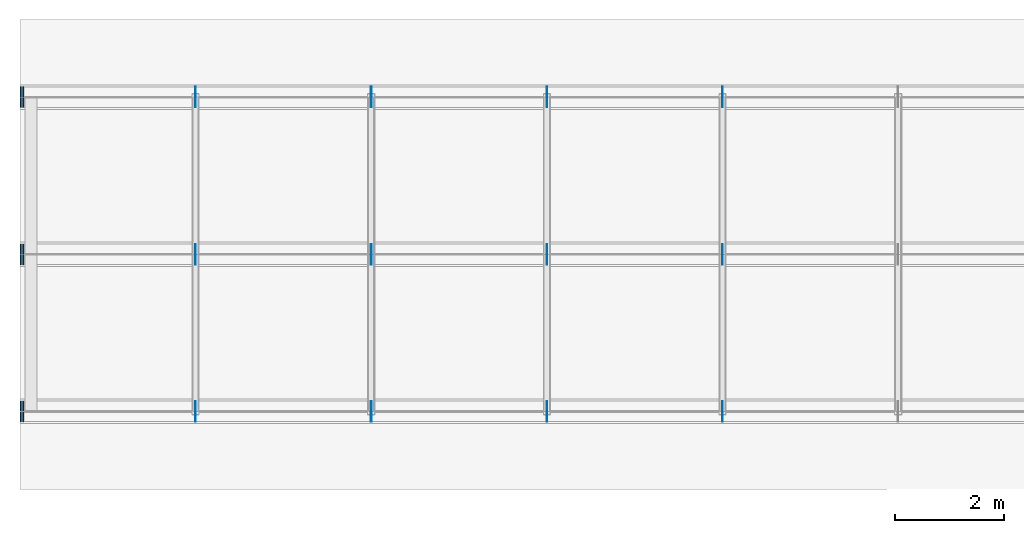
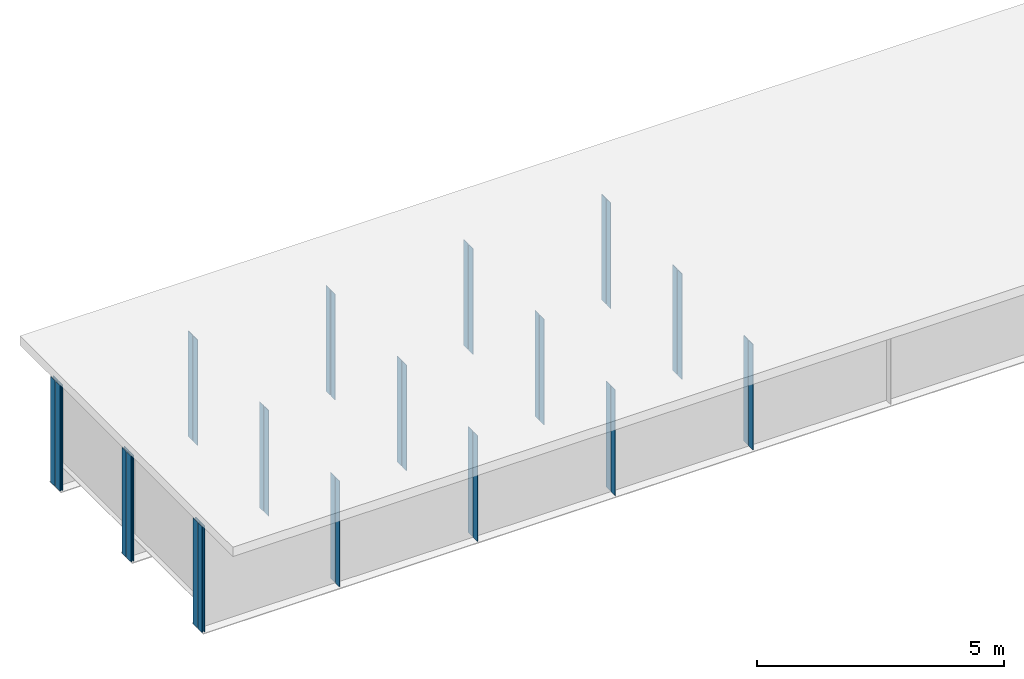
# One storey, part 2 of 12: 36 plates.
"""IFC4 building model written with IfcOpenShell, lengths in metres."""

from ifc_helpers import new_model, si_unit, frame, origin, origin_with_axes, origin_2d_with_axis, place, context, subcontext, project, spatial, rectangle, extrude, element, save


model = new_model("IFC4")

# Units and contexts
model_context = context("Model", 3, precision=1e-05, world=origin())
body_context = subcontext(model_context, "Body", "Model", "MODEL_VIEW")
ifc_project = project(units=[si_unit("LENGTHUNIT", "METRE"), si_unit("AREAUNIT", "SQUARE_METRE"), si_unit("VOLUMEUNIT", "CUBIC_METRE"), si_unit("PLANEANGLEUNIT", "RADIAN")], contexts=[model_context])

# Site, building, storey
site_placement = place(None, origin_with_axes())
site = spatial("IfcSite", under=ifc_project, at=site_placement, Name="Default Site")
building_placement = place(site_placement, origin_with_axes())
building = spatial("IfcBuilding", under=site, at=building_placement, Name="Bridge Structure")
storey_placement = place(building_placement, origin_with_axes())
storey = spatial("IfcBuildingStorey", under=building, at=storey_placement, Name="Superstructure")

# Plates
for number, where, z_axis, x_axis, name in (
    (1, (3.214, -2.77575, -1.305), (0.0, 0.0, 1.0), (1.0, 0.0, 0.0), "Intermediate Stiffener 1"),
    (2, (3.214, -2.97425, -1.305), (0.0, 0.0, 1.0), (1.0, 0.0, 0.0), "Intermediate Stiffener 1"),
    (3, (6.428, -2.77575, -1.305), (0.0, 0.0, 1.0), (1.0, 0.0, 0.0), "Intermediate Stiffener 1"),
    (4, (6.428, -2.97425, -1.305), (0.0, 0.0, 1.0), (1.0, 0.0, 0.0), "Intermediate Stiffener 1"),
    (5, (9.642, -2.77575, -1.305), (0.0, 0.0, 1.0), (1.0, 0.0, 0.0), "Intermediate Stiffener 1"),
    (6, (9.642, -2.97425, -1.305), (0.0, 0.0, 1.0), (1.0, 0.0, 0.0), "Intermediate Stiffener 1"),
    (7, (12.856, -2.77575, -1.305), (0.0, 0.0, 1.0), (1.0, 0.0, 0.0), "Intermediate Stiffener 1"),
    (8, (12.856, -2.97425, -1.305), (0.0, 0.0, 1.0), (1.0, 0.0, 0.0), "Intermediate Stiffener 1"),
):
    element("IfcPlate", number, at=place(storey_placement, frame(where, z_axis=z_axis, x_axis=x_axis)), inside=storey, Name=name, context=body_context, shape_type="SweptSolid", body=[
        extrude(rectangle(XDim=0.012, YDim=0.1765, at=origin_2d_with_axis()), origin_with_axes(), (0.0, 0.0, 1.0), 2.61),
    ])
for number, where, z_axis, x_axis, name in (
    (9, (0.01, -2.77575, -1.305), (0.0, 0.0, 1.0), (1.0, 0.0, 0.0), "End Stiffener 1"),
    (10, (0.01, -2.97425, -1.305), (0.0, 0.0, 1.0), (1.0, 0.0, 0.0), "End Stiffener 1"),
    (11, (0.06, -2.77575, -1.305), (0.0, 0.0, 1.0), (1.0, 0.0, 0.0), "End Stiffener 1"),
    (12, (0.06, -2.97425, -1.305), (0.0, 0.0, 1.0), (1.0, 0.0, 0.0), "End Stiffener 1"),
):
    element("IfcPlate", number, at=place(storey_placement, frame(where, z_axis=z_axis, x_axis=x_axis)), inside=storey, Name=name, context=body_context, shape_type="SweptSolid", body=[
        extrude(rectangle(XDim=0.02, YDim=0.1765, at=origin_2d_with_axis()), origin_with_axes(), (0.0, 0.0, 1.0), 2.61),
    ])
for number, where, z_axis, x_axis, name in (
    (13, (3.214, 0.09925, -1.305), (0.0, 0.0, 1.0), (1.0, 0.0, 0.0), "Intermediate Stiffener 2"),
    (14, (3.214, -0.09925, -1.305), (0.0, 0.0, 1.0), (1.0, 0.0, 0.0), "Intermediate Stiffener 2"),
    (15, (6.428, 0.09925, -1.305), (0.0, 0.0, 1.0), (1.0, 0.0, 0.0), "Intermediate Stiffener 2"),
    (16, (6.428, -0.09925, -1.305), (0.0, 0.0, 1.0), (1.0, 0.0, 0.0), "Intermediate Stiffener 2"),
    (17, (9.642, 0.09925, -1.305), (0.0, 0.0, 1.0), (1.0, 0.0, 0.0), "Intermediate Stiffener 2"),
    (18, (9.642, -0.09925, -1.305), (0.0, 0.0, 1.0), (1.0, 0.0, 0.0), "Intermediate Stiffener 2"),
    (19, (12.856, 0.09925, -1.305), (0.0, 0.0, 1.0), (1.0, 0.0, 0.0), "Intermediate Stiffener 2"),
    (20, (12.856, -0.09925, -1.305), (0.0, 0.0, 1.0), (1.0, 0.0, 0.0), "Intermediate Stiffener 2"),
):
    element("IfcPlate", number, at=place(storey_placement, frame(where, z_axis=z_axis, x_axis=x_axis)), inside=storey, Name=name, context=body_context, shape_type="SweptSolid", body=[
        extrude(rectangle(XDim=0.012, YDim=0.1765, at=origin_2d_with_axis()), origin_with_axes(), (0.0, 0.0, 1.0), 2.61),
    ])
for number, where, z_axis, x_axis, name in (
    (21, (0.01, 0.09925, -1.305), (0.0, 0.0, 1.0), (1.0, 0.0, 0.0), "End Stiffener 2"),
    (22, (0.01, -0.09925, -1.305), (0.0, 0.0, 1.0), (1.0, 0.0, 0.0), "End Stiffener 2"),
    (23, (0.06, 0.09925, -1.305), (0.0, 0.0, 1.0), (1.0, 0.0, 0.0), "End Stiffener 2"),
    (24, (0.06, -0.09925, -1.305), (0.0, 0.0, 1.0), (1.0, 0.0, 0.0), "End Stiffener 2"),
):
    element("IfcPlate", number, at=place(storey_placement, frame(where, z_axis=z_axis, x_axis=x_axis)), inside=storey, Name=name, context=body_context, shape_type="SweptSolid", body=[
        extrude(rectangle(XDim=0.02, YDim=0.1765, at=origin_2d_with_axis()), origin_with_axes(), (0.0, 0.0, 1.0), 2.61),
    ])
for number, where, z_axis, x_axis, name in (
    (25, (3.214, 2.97425, -1.305), (0.0, 0.0, 1.0), (1.0, 0.0, 0.0), "Intermediate Stiffener 3"),
    (26, (3.214, 2.77575, -1.305), (0.0, 0.0, 1.0), (1.0, 0.0, 0.0), "Intermediate Stiffener 3"),
    (27, (6.428, 2.97425, -1.305), (0.0, 0.0, 1.0), (1.0, 0.0, 0.0), "Intermediate Stiffener 3"),
    (28, (6.428, 2.77575, -1.305), (0.0, 0.0, 1.0), (1.0, 0.0, 0.0), "Intermediate Stiffener 3"),
    (29, (9.642, 2.97425, -1.305), (0.0, 0.0, 1.0), (1.0, 0.0, 0.0), "Intermediate Stiffener 3"),
    (30, (9.642, 2.77575, -1.305), (0.0, 0.0, 1.0), (1.0, 0.0, 0.0), "Intermediate Stiffener 3"),
    (31, (12.856, 2.97425, -1.305), (0.0, 0.0, 1.0), (1.0, 0.0, 0.0), "Intermediate Stiffener 3"),
    (32, (12.856, 2.77575, -1.305), (0.0, 0.0, 1.0), (1.0, 0.0, 0.0), "Intermediate Stiffener 3"),
):
    element("IfcPlate", number, at=place(storey_placement, frame(where, z_axis=z_axis, x_axis=x_axis)), inside=storey, Name=name, context=body_context, shape_type="SweptSolid", body=[
        extrude(rectangle(XDim=0.012, YDim=0.1765, at=origin_2d_with_axis()), origin_with_axes(), (0.0, 0.0, 1.0), 2.61),
    ])
for number, where, z_axis, x_axis, name in (
    (33, (0.01, 2.97425, -1.305), (0.0, 0.0, 1.0), (1.0, 0.0, 0.0), "End Stiffener 3"),
    (34, (0.01, 2.77575, -1.305), (0.0, 0.0, 1.0), (1.0, 0.0, 0.0), "End Stiffener 3"),
    (35, (0.06, 2.97425, -1.305), (0.0, 0.0, 1.0), (1.0, 0.0, 0.0), "End Stiffener 3"),
    (36, (0.06, 2.77575, -1.305), (0.0, 0.0, 1.0), (1.0, 0.0, 0.0), "End Stiffener 3"),
):
    element("IfcPlate", number, at=place(storey_placement, frame(where, z_axis=z_axis, x_axis=x_axis)), inside=storey, Name=name, context=body_context, shape_type="SweptSolid", body=[
        extrude(rectangle(XDim=0.02, YDim=0.1765, at=origin_2d_with_axis()), origin_with_axes(), (0.0, 0.0, 1.0), 2.61),
    ])

save(model, "model.ifc")
